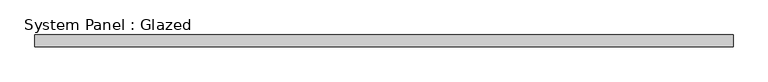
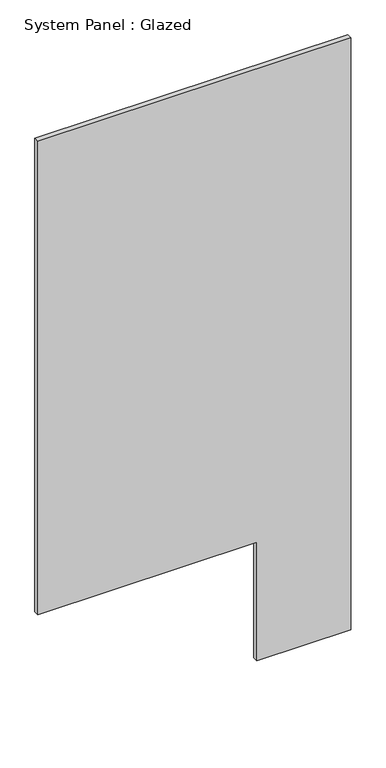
"""IFC4 building model written with IfcOpenShell, lengths in millimetres: plate geometry, System Panel : Glazed."""

from ifc_helpers import new_model, si_unit, frame, origin, place, context, project, spatial, polyline, outline, extrude, source, transform, mapped, element, save


def system_panel_glazed_e3323f67(model_context):
    return source(origin(), model_context, "Body", "SweptSolid", [
        extrude(outline(polyline([(0.0, 304.8), (0.0, 762.0), (3048.0, 762.0), (3048.0, -762.0), (609.6, -762.0), (609.6, 304.8), (0.0, 304.8)])), frame((0.0, -44.45, 0.0), z_axis=(0.0, 1.0, 0.0), x_axis=(0.0, 0.0, 1.0)), (0.0, 0.0, 1.0), 25.4),
    ])


if __name__ == "__main__":
    model = new_model("IFC4")
    model_context = context("Model", 3, world=origin())
    ifc_project = project(units=[si_unit("LENGTHUNIT", "METRE", prefix="MILLI")], contexts=[model_context])
    site = spatial("IfcSite", under=ifc_project)
    building = spatial("IfcBuilding", under=site)
    placement = place(None, origin())
    system_panel_glazed_shape = system_panel_glazed_e3323f67(model_context)
    element("IfcPlate", 1, ObjectType="System Panel : Glazed", at=placement, inside=building, context=model_context, shape_type="MappedRepresentation", body=[
        mapped(system_panel_glazed_shape, transform((0.0, 0.0, 0.0), x_axis=(1.0, 0.0, 0.0), y_axis=(0.0, 1.0, 0.0), z_axis=(0.0, 0.0, 1.0))),
    ])
    save(model, "model.ifc")
